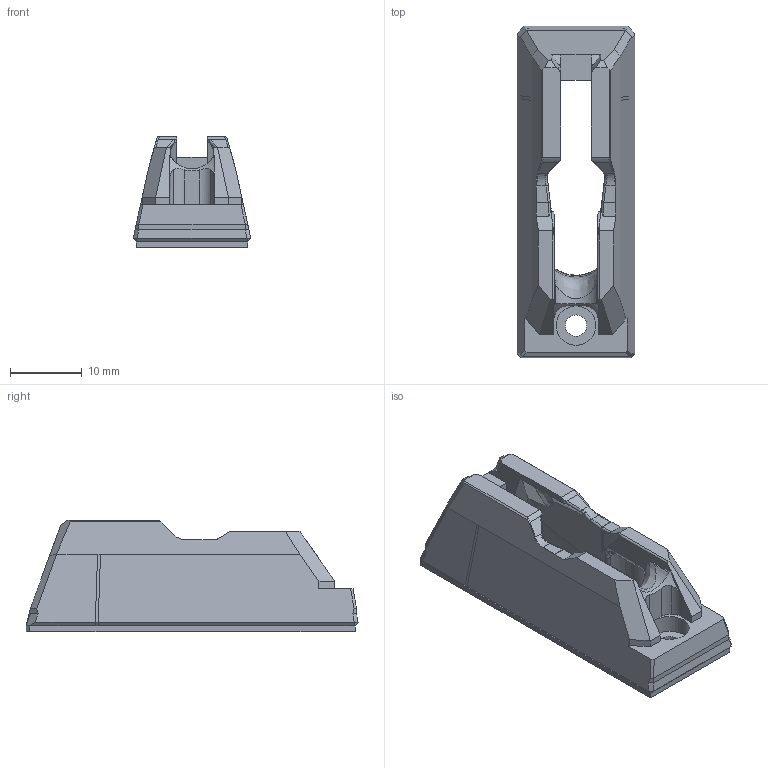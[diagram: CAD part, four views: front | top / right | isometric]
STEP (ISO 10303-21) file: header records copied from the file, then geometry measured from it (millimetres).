
FILE_DESCRIPTION(('HOOPS Exchange Step'),'2;1');
FILE_NAME('/private/var/mobile/Containers/Data/Application/CF5FE49D-83C9-4FF2-81F6-0AAB70978F0F/tmp/export/temp_export','2026-09-05T10:46:09-05:00',('mobile'),('Shapr3D Limited'),'HOOPS Exchange 2026.3','Shapr3D','Authorized');
FILE_SCHEMA( ('AP242_MANAGED_MODEL_BASED_3D_ENGINEERING_MIM_LF {1 0 10303 442 1 1 4}') );
Length unit declared in the file: millimetre
Products named in the file (2): WHITE RICE FEED LIPS FINAL.STEP; root
Assembly tree (1 placements, depth 2):
  root
    WHITE RICE FEED LIPS FINAL.STEP
Bounding box: 16.39 x 46.29 x 15.54 mm (x, y, z)
Volume: 4409 mm3; surface area: 3687 mm2
Topology: 1 solids, 2 shells, 328 faces, 841 edges, 516 vertices
Faces by surface type: plane 195, bspline 69, cylinder 46, torus 9, cone 9
Full cylindrical faces by diameter (mm): 3 x1, 5.5 x1
Entity records: 15005 total; most frequent: CARTESIAN_POINT 7936, ORIENTED_EDGE 1682, DIRECTION 1102, EDGE_CURVE 841, VERTEX_POINT 516, VECTOR 460, LINE 460, EDGE_LOOP 331
